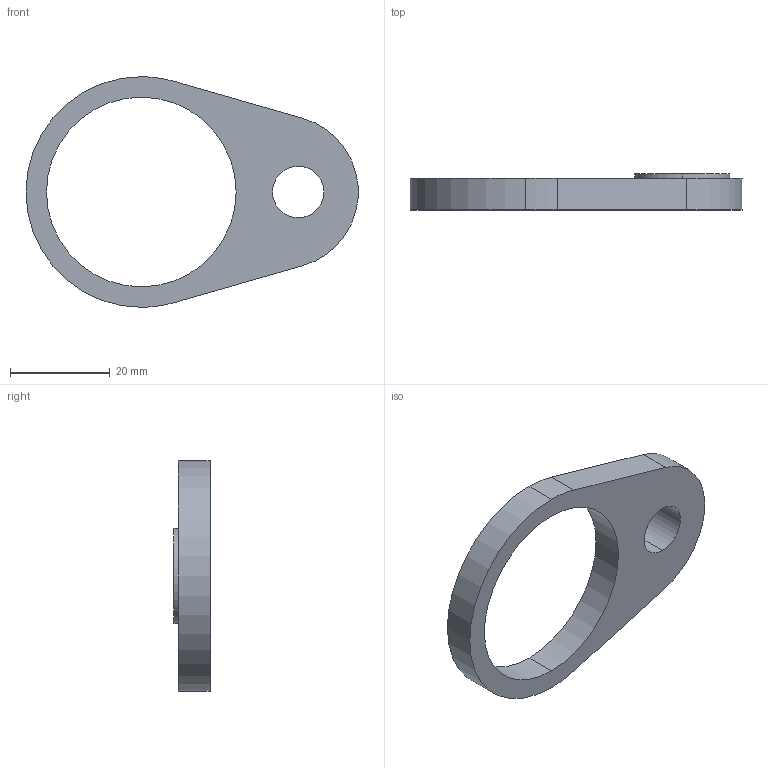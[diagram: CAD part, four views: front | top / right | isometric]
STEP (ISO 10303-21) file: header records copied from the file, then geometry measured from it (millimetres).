
FILE_DESCRIPTION (( 'STEP AP214' ), '1' );
FILE_NAME ('GasSpringClamp-B-38.stp', '2011-04-26T19:46:43', ( '' ), ( '' ), 'SwSTEP 2.0', 'SolidWorks 2010', '' );
FILE_SCHEMA (( 'AUTOMOTIVE_DESIGN' ));
Length unit declared in the file: inch
Products named in the file (1): GasSpringClamp-B-38
Bounding box: 66.53 x 7.24 x 46.23 mm (x, y, z)
Volume: 7261.9 mm3; surface area: 4414.8 mm2
Topology: 1 solids, 1 shells, 15 faces, 36 edges, 24 vertices
Faces by surface type: cylinder 10, plane 5
Entity records: 498 total; most frequent: DIRECTION 88, CARTESIAN_POINT 76, ORIENTED_EDGE 72, AXIS2_PLACEMENT_3D 36, EDGE_CURVE 36, VERTEX_POINT 24, CIRCLE 20, EDGE_LOOP 20
